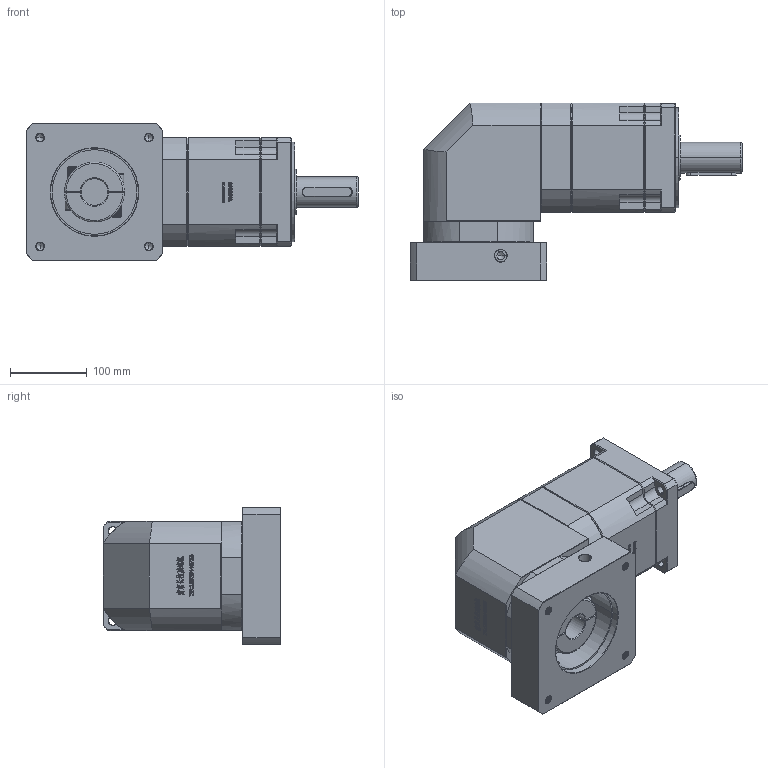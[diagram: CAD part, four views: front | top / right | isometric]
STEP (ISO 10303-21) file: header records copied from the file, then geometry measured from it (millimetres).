
FILE_DESCRIPTION (( 'STEP AP214' ), '1' );
FILE_NAME ('ZBR142A-D40-L3-35-114.3-200-M12.step', '2023-03-18T09:24:14', ( '' ), ( '' ), 'SwSTEP 2.0', 'SolidWorks 2016', '' );
FILE_SCHEMA (( 'AUTOMOTIVE_DESIGN' ));
Length unit declared in the file: millimetre
Products named in the file (1): ZBR142A-D40-L3-35-114.3-200-M12
Bounding box: 431.7 x 231 x 178 mm (x, y, z)
Volume: 7484881.4 mm3; surface area: 467287.7 mm2
Topology: 6 solids, 6 shells, 2924 faces, 7789 edges, 5014 vertices
Faces by surface type: plane 1552, bspline 592, cylinder 418, cone 340, torus 22
Entity records: 163343 total; most frequent: CARTESIAN_POINT 63021, ORIENTED_EDGE 15518, DIRECTION 11776, EDGE_CURVE 7759, VECTOR 5234, LINE 5234, VERTEX_POINT 5014, AXIS2_PLACEMENT_3D 3271
